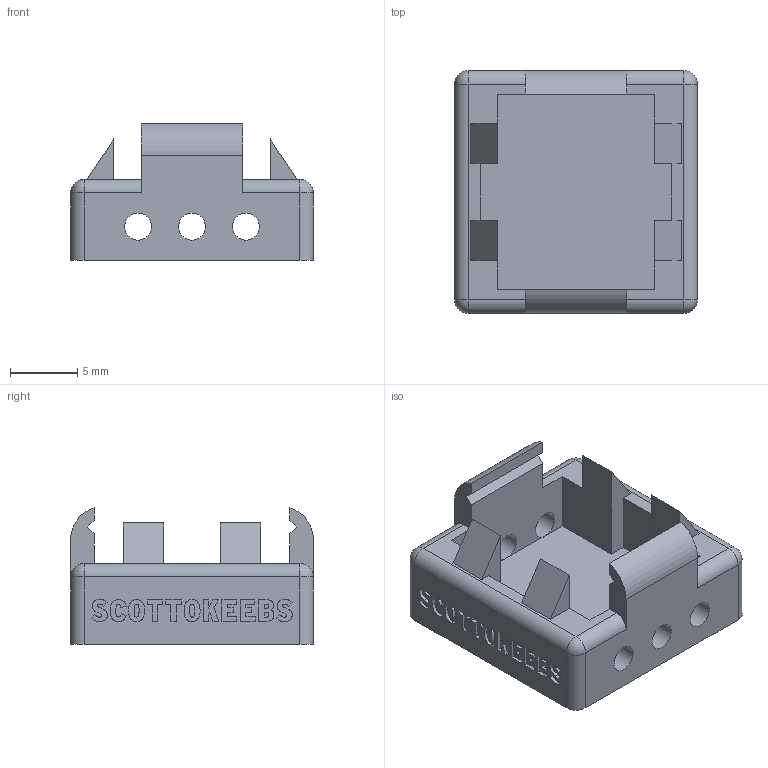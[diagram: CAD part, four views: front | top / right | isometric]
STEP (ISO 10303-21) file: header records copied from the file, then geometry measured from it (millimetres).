
FILE_DESCRIPTION(('HOOPS Exchange Step'),'2;1');
FILE_NAME('/var/folders/hd/s3_8dfks4419lbhxn872679c0000gn/T/com.shapr3d.shapr/export/temp_export','2023-08-22T14:58:55-04:00',('jscotto'),('Shapr3D Limited'),'HOOPS Exchange 2023.2','Shapr3D','Authorized');
FILE_SCHEMA( ('AUTOMOTIVE_DESIGN { 1 0 10303 214 1 1 1 1 }') );
Length unit declared in the file: millimetre
Products named in the file (1): Choc (Flat)
Bounding box: 18 x 18 x 10.14 mm (x, y, z)
Volume: 1207.6 mm3; surface area: 1586.9 mm2
Topology: 1 solids, 1 shells, 268 faces, 718 edges, 472 vertices
Faces by surface type: plane 202, bspline 44, cylinder 18, sphere 4
Full cylindrical faces by diameter (mm): 2 x6
Entity records: 10874 total; most frequent: CARTESIAN_POINT 4402, ORIENTED_EDGE 1428, DIRECTION 1121, EDGE_CURVE 714, VECTOR 581, LINE 581, VERTEX_POINT 472, EDGE_LOOP 304
